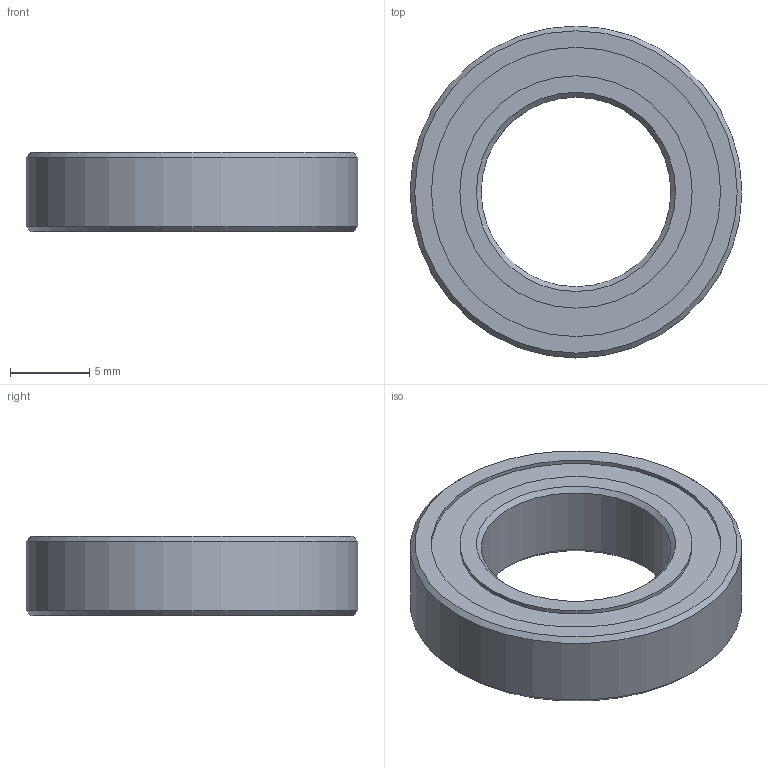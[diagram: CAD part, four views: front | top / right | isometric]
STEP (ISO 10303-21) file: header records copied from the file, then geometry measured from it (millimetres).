
FILE_DESCRIPTION(('Open CASCADE Model'),'2;1');
FILE_NAME('18_Bearing_6801ZZ_Output_Rear','2026-10-20T19:44:38',( 'Author'),('Open CASCADE'),'Open CASCADE STEP processor 8.0', 'build123d','Unknown');
FILE_SCHEMA(('AUTOMOTIVE_DESIGN { 1 0 10303 214 1 1 1 1 }'));
Length unit declared in the file: millimetre
Products named in the file (2): 18_Bearing_6801ZZ_Output_Rear
Assembly tree (1 placements, depth 2):
  18_Bearing_6801ZZ_Output_Rear
    18_Bearing_6801ZZ_Output_Rear
Bounding box: 21 x 21 x 5 mm (x, y, z)
Volume: 1110.3 mm3; surface area: 1000.3 mm2
Topology: 1 solids, 1 shells, 16 faces, 26 edges, 16 vertices
Faces by surface type: cylinder 6, plane 6, cone 4
Full cylindrical faces by diameter (mm): 12 x1, 14.7 x2, 18.3 x2, 21 x1
Entity records: 760 total; most frequent: DIRECTION 122, CARTESIAN_POINT 120, ORIENTED_EDGE 52, PCURVE 52, DEFINITIONAL_REPRESENTATION 52, LINE 42, VECTOR 42, AXIS2_PLACEMENT_3D 34
